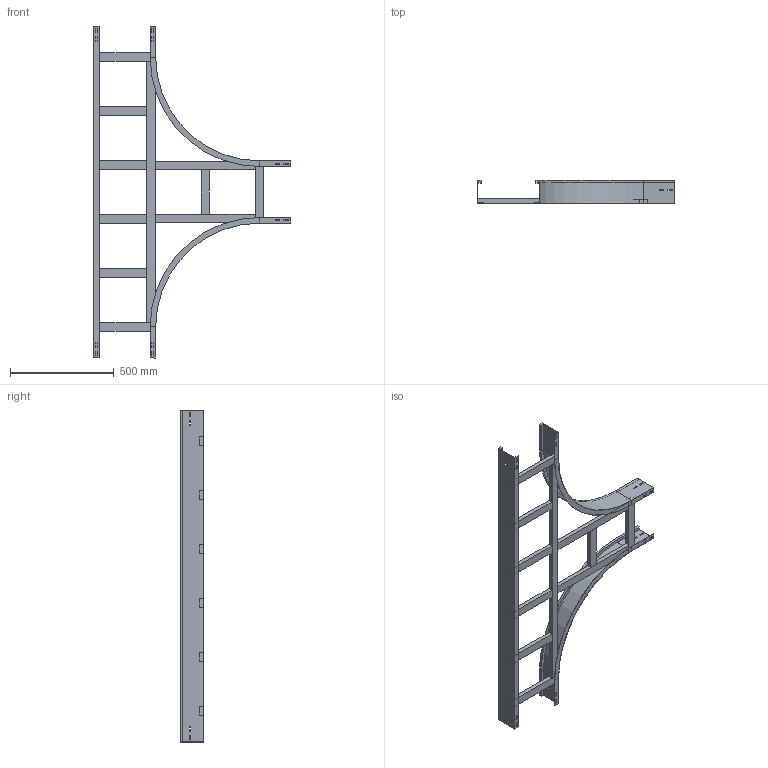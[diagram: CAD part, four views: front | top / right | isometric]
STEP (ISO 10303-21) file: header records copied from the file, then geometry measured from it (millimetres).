
FILE_DESCRIPTION (( 'STEP AP214' ), '1' );
FILE_NAME ('15B5J300.step', '2025-02-21T15:50:38', ( '' ), ( '' ), 'SwSTEP 2.0', 'SolidWorks 2023', '' );
FILE_SCHEMA (( 'AUTOMOTIVE_DESIGN' ));
Length unit declared in the file: millimetre
Products named in the file (8): TRAVERSINO_INTERMEDIO_R500+300; 15B5J300; LONGH.RETT_H112.5_R500+300; TRAVERSINO_VERT_R500; TRAVERSINO_300; TRAVERSINO_COPPIA_300; TRAVERSINO_LONG._R500+300; LONGH.INTERNO 90°_H112.5_R500
Assembly tree (14 placements, depth 2):
  15B5J300
    LONGH.INTERNO 90°_H112.5_R500  x2
    LONGH.RETT_H112.5_R500+300
    TRAVERSINO_300  x3
    TRAVERSINO_LONG._R500+300
    TRAVERSINO_INTERMEDIO_R500+300  x4
    TRAVERSINO_VERT_R500  x2
    TRAVERSINO_COPPIA_300
Bounding box: 950 x 112.5 x 1600 mm (x, y, z)
Volume: 5284466.3 mm3; surface area: 1719602.3 mm2
Topology: 14 solids, 14 shells, 224 faces, 556 edges, 360 vertices
Faces by surface type: plane 216, cylinder 8
Entity records: 4209 total; most frequent: CARTESIAN_POINT 695, ORIENTED_EDGE 664, DIRECTION 634, EDGE_CURVE 332, LINE 324, VECTOR 324, VERTEX_POINT 216, EDGE_LOOP 162
